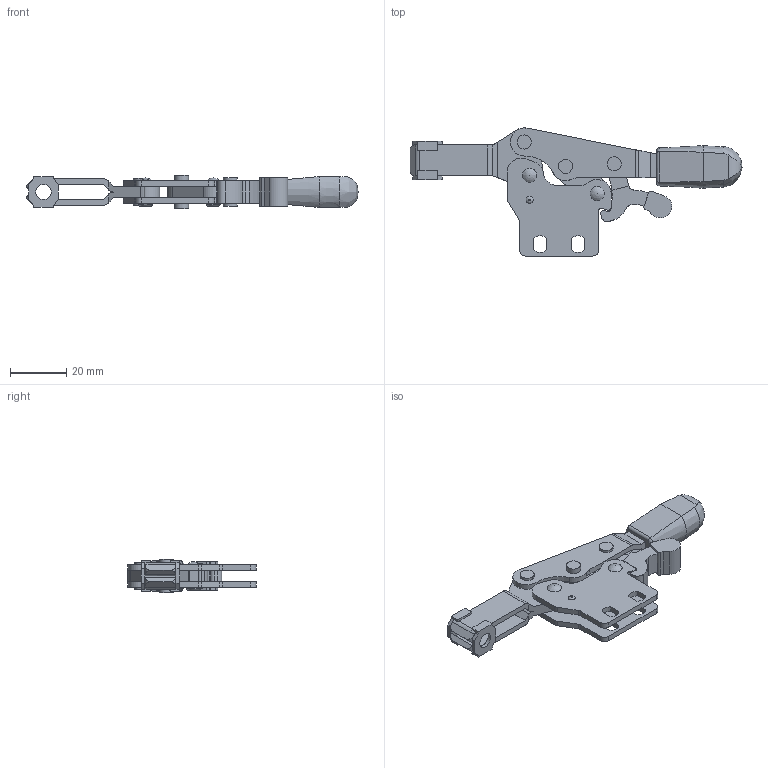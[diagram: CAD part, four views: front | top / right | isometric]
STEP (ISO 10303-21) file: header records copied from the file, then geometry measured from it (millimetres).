
FILE_DESCRIPTION( ( 'STEP AP203' ), '1' );
FILE_NAME( 'C:/Temp/Ganter_Step_05_03_2020/data/2_4/gn_820_4/gn_820_4_ni/Stainless Steel-Toggle clamp GN 820.4-75-NL-NI (closed).stp', '2020-03-13T05:53:44', ( 'License CC BY-ND 4.0' ), ( 'CADENAS' ), ' ', 'PARTsolutions', ' ' );
FILE_SCHEMA( ( 'CONFIG_CONTROL_DESIGN' ) );
Length unit declared in the file: millimetre
Products named in the file (7): Stainless Steel-Toggle clamp GN 820.4-75-NL-NI (closed); _Toggle clamp GN 820.4-75-NL-NI-1; _Toggle clamp GN 820.4-75-NL-NI (1)-2; _Toggle clamp GN 820.4-75-NL-NI (1)-3; _Toggle clamp GN 820.4-75-NL-NI (1)-4; _Toggle clamp GN 820.4-75-NL-NI-5; _Toggle clamp GN 820.4-75-NL-NI-7
Assembly tree (7 placements, depth 2):
  Stainless Steel-Toggle clamp GN 820.4-75-NL-NI (closed)
    _Toggle clamp GN 820.4-75-NL-NI-1
    _Toggle clamp GN 820.4-75-NL-NI (1)-2
    _Toggle clamp GN 820.4-75-NL-NI (1)-3
    _Toggle clamp GN 820.4-75-NL-NI (1)-4
    _Toggle clamp GN 820.4-75-NL-NI-5
    _Toggle clamp GN 820.4-75-NL-NI-7  x2
Bounding box: 118 x 45.54 x 12 mm (x, y, z)
Volume: 15237.8 mm3; surface area: 13752.3 mm2
Topology: 7 solids, 7 shells, 257 faces, 698 edges, 468 vertices
Faces by surface type: plane 146, cylinder 98, bspline 5, torus 4, cone 4
Full cylindrical faces by diameter (mm): 1 x1, 3.8 x4, 5 x15, 5.5 x2
Entity records: 7816 total; most frequent: CARTESIAN_POINT 1552, DIRECTION 1287, ORIENTED_EDGE 1204, EDGE_CURVE 602, AXIS2_PLACEMENT_3D 462, VERTEX_POINT 419, LINE 363, VECTOR 363
